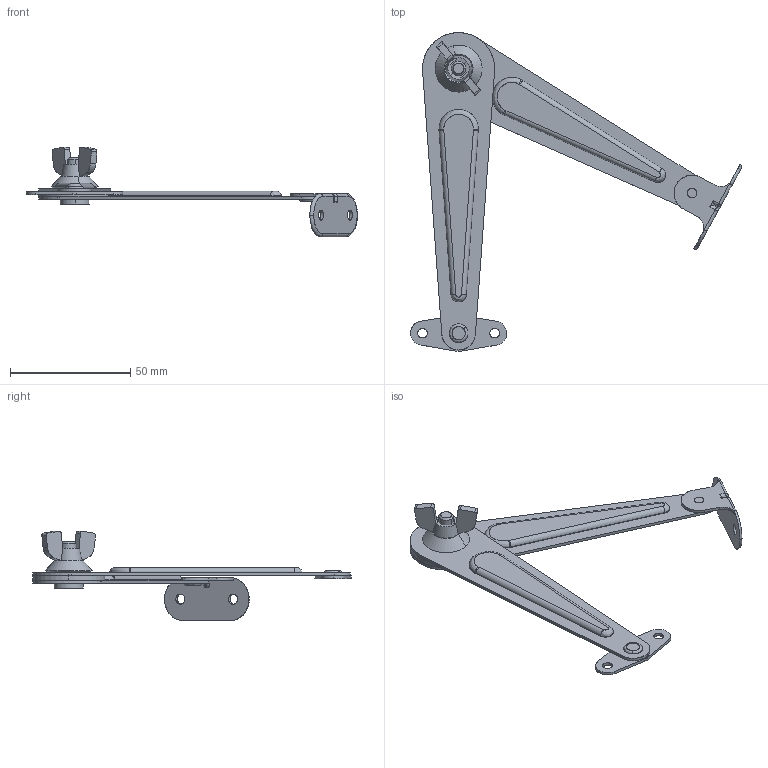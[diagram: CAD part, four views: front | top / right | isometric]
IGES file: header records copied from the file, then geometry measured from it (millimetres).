
Start section: SolidWorks IGES file using analytic representation for surfaces
Global section: file name: C:\Users\cbrechard\Desktop\BA 851.IGS; native system: SolidWorks 2017; preprocessor: SolidWorks 2017; author: cbrechard; date: 191029.172604; units: millimetre
Bounding box: 137.63 x 132.59 x 37.28 mm (x, y, z)
Surface area: 19818.4 mm2 (no closed solid volume)
Topology: 0 solids, 0 shells, 209 faces, 2912 edges, 2910 vertices
Faces by surface type: revolution 112, bspline 97
